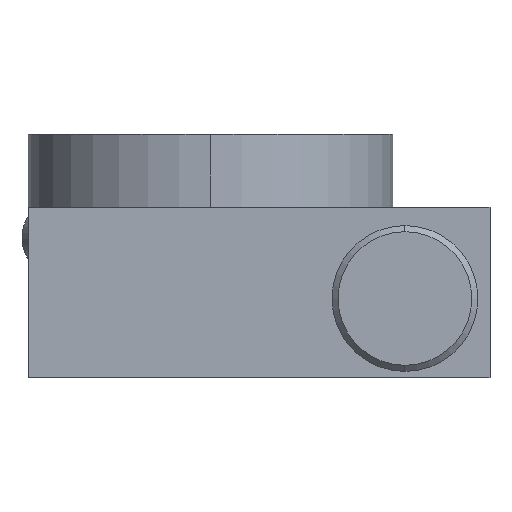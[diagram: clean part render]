
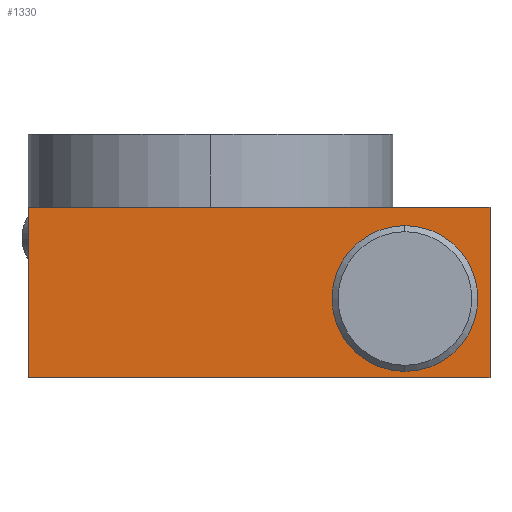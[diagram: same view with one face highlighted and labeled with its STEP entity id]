
A CAD part, left-side view. The second image highlights one B-rep face of the part: STEP entity #1330.
In plain terms, the highlighted planar face has unit normal (-1, 0, 0).
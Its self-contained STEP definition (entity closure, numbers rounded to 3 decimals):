
#1105 = VERTEX_POINT ( 'NONE', #2329 ) ;
#1146 = EDGE_LOOP ( 'NONE', ( #1337, #1355 ) ) ;
#1164 = ORIENTED_EDGE ( 'NONE', *, *, #1349, .T. ) ;
#1246 = EDGE_CURVE ( 'NONE', #1105, #1263, #2380, .T. ) ;
#1263 = VERTEX_POINT ( 'NONE', #2595 ) ;
#1330 = ADVANCED_FACE ( 'NONE', ( #3469, #3554 ), #3467, .F. ) ;
#1336 = EDGE_CURVE ( 'NONE', #1369, #1389, #3462, .T. ) ;
#1337 = ORIENTED_EDGE ( 'NONE', *, *, #1352, .T. ) ;
#1348 = ORIENTED_EDGE ( 'NONE', *, *, #1394, .F. ) ;
#1349 = EDGE_CURVE ( 'NONE', #1372, #1369, #3434, .T. ) ;
#1352 = EDGE_CURVE ( 'NONE', #1263, #1105, #3579, .T. ) ;
#1355 = ORIENTED_EDGE ( 'NONE', *, *, #1246, .T. ) ;
#1356 = VERTEX_POINT ( 'NONE', #3590 ) ;
#1357 = EDGE_LOOP ( 'NONE', ( #1368, #1367, #1348, #1164 ) ) ;
#1367 = ORIENTED_EDGE ( 'NONE', *, *, #1377, .F. ) ;
#1368 = ORIENTED_EDGE ( 'NONE', *, *, #1336, .T. ) ;
#1369 = VERTEX_POINT ( 'NONE', #3574 ) ;
#1372 = VERTEX_POINT ( 'NONE', #3573 ) ;
#1377 = EDGE_CURVE ( 'NONE', #1356, #1389, #3499, .T. ) ;
#1389 = VERTEX_POINT ( 'NONE', #3618 ) ;
#1394 = EDGE_CURVE ( 'NONE', #1372, #1356, #3638, .T. ) ;
#2329 = CARTESIAN_POINT ( 'NONE',  ( 0., 7., 9.35 ) ) ;
#2376 = DIRECTION ( 'NONE',  ( 1., 0., 0. ) ) ;
#2377 = CARTESIAN_POINT ( 'NONE',  ( 0., 7., 6.5 ) ) ;
#2378 = AXIS2_PLACEMENT_3D ( 'NONE', #2377, #2376, #2379 ) ;
#2379 = DIRECTION ( 'NONE',  ( 0., 0., -1. ) ) ;
#2380 = CIRCLE ( 'NONE', #2378, 2.85 ) ;
#2595 = CARTESIAN_POINT ( 'NONE',  ( 0., 7., 3.65 ) ) ;
#3434 = LINE ( 'NONE', #3583, #3582 ) ;
#3445 = DIRECTION ( 'NONE',  ( 0., -1., 0. ) ) ;
#3446 = VECTOR ( 'NONE', #3445, 1000. ) ;
#3447 = CARTESIAN_POINT ( 'NONE',  ( 0., 0., 0. ) ) ;
#3462 = LINE ( 'NONE', #3447, #3446 ) ;
#3463 = DIRECTION ( 'NONE',  ( 0., 0., -1. ) ) ;
#3464 = DIRECTION ( 'NONE',  ( 1., 0., 0. ) ) ;
#3465 = CARTESIAN_POINT ( 'NONE',  ( 0., 0., 14. ) ) ;
#3466 = AXIS2_PLACEMENT_3D ( 'NONE', #3465, #3464, #3463 ) ;
#3467 = PLANE ( 'NONE',  #3466 ) ;
#3469 = FACE_BOUND ( 'NONE', #1146, .T. ) ;
#3494 = DIRECTION ( 'NONE',  ( 0., 0., -1. ) ) ;
#3495 = VECTOR ( 'NONE', #3494, 1000. ) ;
#3498 = CARTESIAN_POINT ( 'NONE',  ( 0., 0., 14. ) ) ;
#3499 = LINE ( 'NONE', #3498, #3495 ) ;
#3554 = FACE_OUTER_BOUND ( 'NONE', #1357, .T. ) ;
#3573 = CARTESIAN_POINT ( 'NONE',  ( 0., 38., 14. ) ) ;
#3574 = CARTESIAN_POINT ( 'NONE',  ( 0., 38., 0. ) ) ;
#3575 = DIRECTION ( 'NONE',  ( 0., 0., -1. ) ) ;
#3576 = DIRECTION ( 'NONE',  ( 1., 0., 0. ) ) ;
#3577 = CARTESIAN_POINT ( 'NONE',  ( 0., 7., 6.5 ) ) ;
#3578 = AXIS2_PLACEMENT_3D ( 'NONE', #3577, #3576, #3575 ) ;
#3579 = CIRCLE ( 'NONE', #3578, 2.85 ) ;
#3581 = DIRECTION ( 'NONE',  ( 0., 0., -1. ) ) ;
#3582 = VECTOR ( 'NONE', #3581, 1000. ) ;
#3583 = CARTESIAN_POINT ( 'NONE',  ( 0., 38., 14. ) ) ;
#3590 = CARTESIAN_POINT ( 'NONE',  ( 0., 0., 14. ) ) ;
#3618 = CARTESIAN_POINT ( 'NONE',  ( 0., 0., 0. ) ) ;
#3635 = DIRECTION ( 'NONE',  ( 0., -1., 0. ) ) ;
#3636 = VECTOR ( 'NONE', #3635, 1000. ) ;
#3637 = CARTESIAN_POINT ( 'NONE',  ( 0., 0., 14. ) ) ;
#3638 = LINE ( 'NONE', #3637, #3636 ) ;
